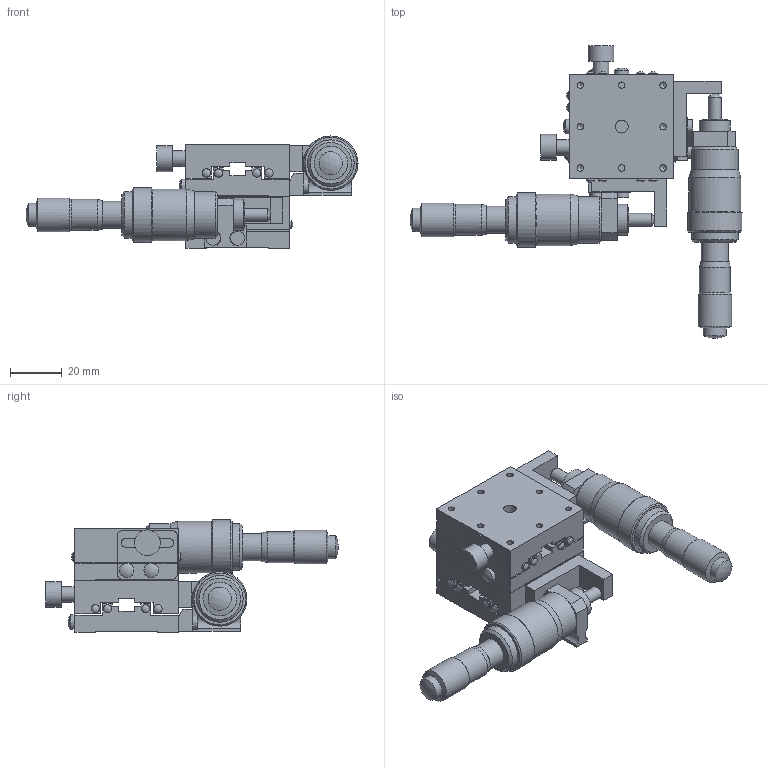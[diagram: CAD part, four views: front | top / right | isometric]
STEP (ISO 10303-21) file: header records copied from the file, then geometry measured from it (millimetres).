
FILE_DESCRIPTION( ( 'STEP AP214' ), '1' );
FILE_NAME( 'C:/Project/3D_B21-40DR-配布-070508.stp', '2007-05-08T10:42:43', ( ' ' ), ( ' ' ), 'XStep 1.0', ' ', ' ' );
FILE_SCHEMA( ( 'automotive_design' ) );
Length unit declared in the file: millimetre
Products named in the file (6): 1; 2; 3; 4; 5; 6
Bounding box: 128.3 x 113.1 x 43.3 mm (x, y, z)
Volume: 97827.4 mm3; surface area: 44829.1 mm2
Topology: 6 solids, 6 shells, 366 faces, 862 edges, 564 vertices
Faces by surface type: plane 192, cylinder 122, cone 28, sphere 24
Full cylindrical faces by diameter (mm): 2.5 x32, 3 x2, 3.2 x16, 3.5 x8, 5 x6, 5.5 x4, 5.6 x4, 6 x10, 9 x2, 9.5 x2, 10 x2, 10.5 x4, 12 x4, 13 x2, 18 x4, 20 x2, 21 x2
Entity records: 12495 total; most frequent: DIRECTION 1668, CARTESIAN_POINT 1576, ORIENTED_EDGE 1356, EDGE_CURVE 678, AXIS2_PLACEMENT_3D 618, EDGE_LOOP 592, VERTEX_POINT 526, FACE_OUTER_BOUND 472
